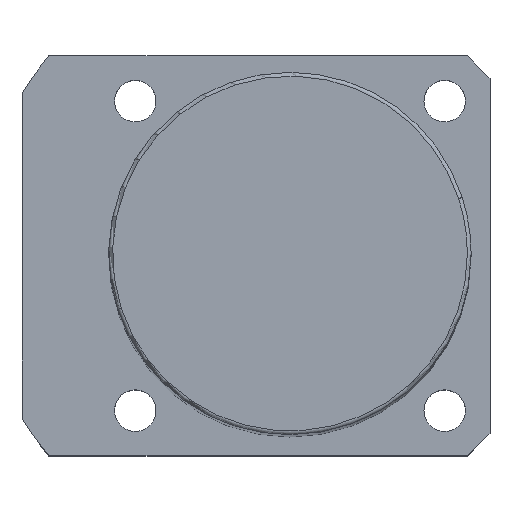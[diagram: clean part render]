
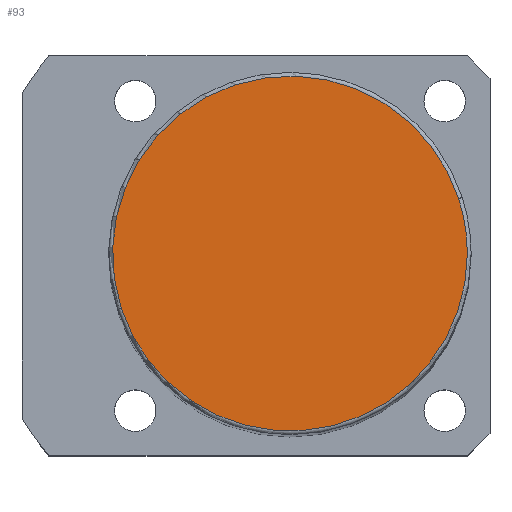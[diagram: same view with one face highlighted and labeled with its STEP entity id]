
A CAD part, top view. The second image highlights one B-rep face of the part: STEP entity #93.
In plain terms, the highlighted planar face has unit normal (0, 0, 1).
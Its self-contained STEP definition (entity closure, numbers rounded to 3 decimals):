
#16=CARTESIAN_POINT('',(22.35,7.262,189.0));
#17=VERTEX_POINT('',#16);
#45=CARTESIAN_POINT('',(-22.35,-7.262,189.0));
#46=VERTEX_POINT('',#45);
#54=CARTESIAN_POINT('',(0.0,0.0,189.0));
#55=DIRECTION('',(0.0,0.0,1.0));
#56=DIRECTION('',(1.0,0.0,0.0));
#57=AXIS2_PLACEMENT_3D('',#54,#55,#56);
#58=CIRCLE('',#57,23.5);
#59=EDGE_CURVE('no 890',#17,#46,#58,.T.);
#69=CARTESIAN_POINT('',(23.5,0.0,189.0));
#70=VERTEX_POINT('',#69);
#71=CARTESIAN_POINT('',(0.0,0.0,189.0));
#72=DIRECTION('',(0.0,0.0,1.0));
#73=DIRECTION('',(1.0,0.0,0.0));
#74=AXIS2_PLACEMENT_3D('',#71,#72,#73);
#75=CIRCLE('',#74,23.5);
#76=EDGE_CURVE('no 899',#70,#17,#75,.T.);
#77=ORIENTED_EDGE('',*,*,#76,.T.);
#78=ORIENTED_EDGE('',*,*,#59,.T.);
#79=CARTESIAN_POINT('',(0.0,0.0,189.0));
#80=DIRECTION('',(0.0,0.0,1.0));
#81=DIRECTION('',(1.0,0.0,0.0));
#82=AXIS2_PLACEMENT_3D('',#79,#80,#81);
#83=CIRCLE('',#82,23.5);
#84=EDGE_CURVE('no 905',#46,#70,#83,.T.);
#85=ORIENTED_EDGE('',*,*,#84,.T.);
#86=EDGE_LOOP('',(#77,#78,#85));
#87=FACE_OUTER_BOUND('',#86,.T.);
#88=CARTESIAN_POINT('',(0.0,0.0,189.0));
#89=DIRECTION('',(0.0,0.0,1.0));
#90=DIRECTION('',(1.0,0.0,0.0));
#91=AXIS2_PLACEMENT_3D('',#88,#89,#90);
#92=PLANE('',#91);
#93=ADVANCED_FACE('no 892',(#87),#92,.T.);
